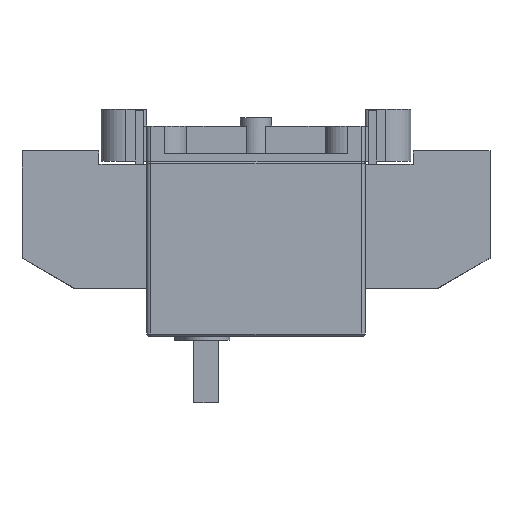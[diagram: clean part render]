
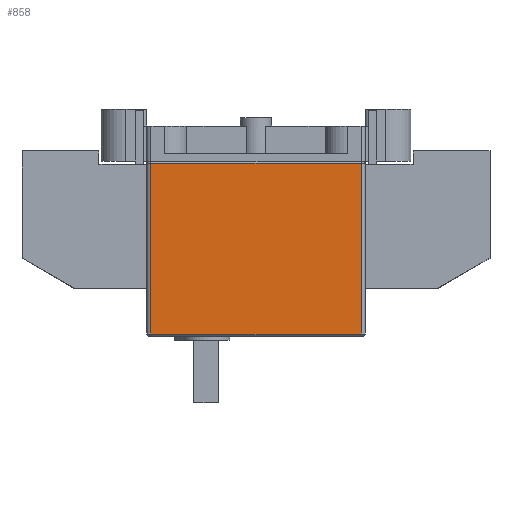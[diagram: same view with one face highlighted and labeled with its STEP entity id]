
A CAD part, left-side view. The second image highlights one B-rep face of the part: STEP entity #858.
In plain terms, the highlighted planar face has unit normal (-1, 0, 0).
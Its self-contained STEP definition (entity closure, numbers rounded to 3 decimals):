
#301=PLANE('',#8974);
#858=ADVANCED_FACE('',(#1372),#301,.F.);
#1372=FACE_OUTER_BOUND('',#1836,.T.);
#1836=EDGE_LOOP('',(#5531,#5532,#5533,#5534));
#2731=LINE('',#13422,#3647);
#2738=LINE('',#13502,#3654);
#2745=LINE('',#13518,#3661);
#2746=LINE('',#13520,#3662);
#3647=VECTOR('',#10925,1.);
#3654=VECTOR('',#10978,1.);
#3661=VECTOR('',#11001,1.);
#3662=VECTOR('',#11004,1.);
#5531=ORIENTED_EDGE('',*,*,#7951,.T.);
#5532=ORIENTED_EDGE('',*,*,#7917,.T.);
#5533=ORIENTED_EDGE('',*,*,#7952,.F.);
#5534=ORIENTED_EDGE('',*,*,#7941,.T.);
#6825=VERTEX_POINT('',#13410);
#6829=VERTEX_POINT('',#13419);
#6844=VERTEX_POINT('',#13474);
#6848=VERTEX_POINT('',#13501);
#7917=EDGE_CURVE('',#6829,#6825,#2731,.T.);
#7941=EDGE_CURVE('',#6844,#6848,#2738,.T.);
#7951=EDGE_CURVE('',#6848,#6829,#2745,.T.);
#7952=EDGE_CURVE('',#6844,#6825,#2746,.T.);
#8974=AXIS2_PLACEMENT_3D('',#13521,#11005,#11006);
#10925=DIRECTION('',(0.,1.,0.));
#10978=DIRECTION('',(0.,-1.,0.));
#11001=DIRECTION('',(0.,0.,1.));
#11004=DIRECTION('',(0.,0.,1.));
#11005=DIRECTION('',(1.,0.,0.));
#11006=DIRECTION('',(0.,1.,0.));
#13410=CARTESIAN_POINT('',(-197.5,50.5,-1.));
#13419=CARTESIAN_POINT('',(-197.5,-50.5,-1.));
#13422=CARTESIAN_POINT('',(-197.5,-50.5,-1.));
#13474=CARTESIAN_POINT('',(-197.5,50.5,-83.));
#13501=CARTESIAN_POINT('',(-197.5,-50.5,-83.));
#13502=CARTESIAN_POINT('',(-197.5,-50.5,-83.));
#13518=CARTESIAN_POINT('',(-197.5,-50.5,-84.));
#13520=CARTESIAN_POINT('',(-197.5,50.5,-84.));
#13521=CARTESIAN_POINT('',(-197.5,-50.5,-84.));
